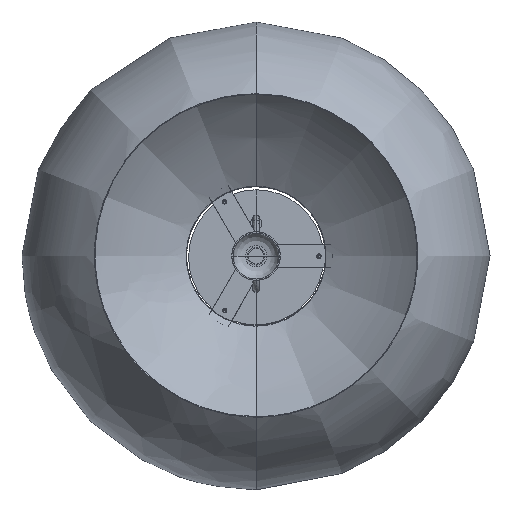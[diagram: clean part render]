
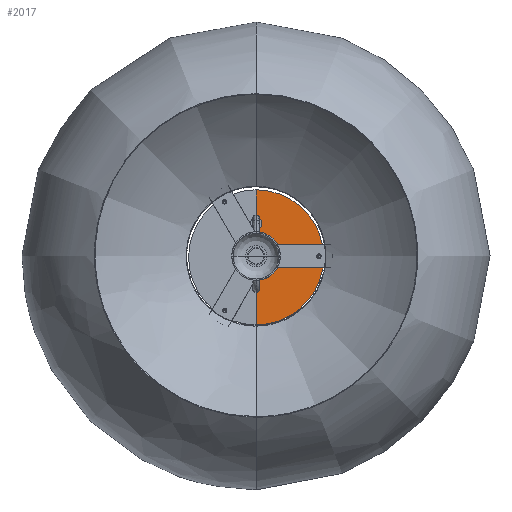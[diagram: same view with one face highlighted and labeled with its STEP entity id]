
A CAD part, top view. The second image highlights one B-rep face of the part: STEP entity #2017.
In plain terms, the highlighted planar face has unit normal (0, 0, 1).
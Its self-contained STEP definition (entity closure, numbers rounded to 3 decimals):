
#127=PLANE('',#2177);
#218=FACE_OUTER_BOUND('',#348,.T.);
#348=EDGE_LOOP('',(#1516,#1517,#1518,#1519,#1520,#1521,#1522));
#473=LINE('',#20696,#636);
#474=LINE('',#20697,#637);
#475=LINE('',#20698,#638);
#636=VECTOR('',#2513,304.8);
#637=VECTOR('',#2514,304.8);
#638=VECTOR('',#2515,304.8);
#785=CIRCLE('',#2162,5.125);
#792=CIRCLE('',#2171,5.125);
#793=CIRCLE('',#2173,5.125);
#797=CIRCLE('',#2178,60.);
#909=VERTEX_POINT('',#20661);
#911=VERTEX_POINT('',#20664);
#914=VERTEX_POINT('',#20674);
#918=VERTEX_POINT('',#20682);
#919=VERTEX_POINT('',#20686);
#921=VERTEX_POINT('',#20693);
#922=VERTEX_POINT('',#20694);
#1124=EDGE_CURVE('',#911,#909,#785,.T.);
#1134=EDGE_CURVE('',#914,#918,#792,.T.);
#1135=EDGE_CURVE('',#919,#914,#793,.T.);
#1139=EDGE_CURVE('',#921,#922,#797,.T.);
#1140=EDGE_CURVE('',#919,#921,#473,.T.);
#1141=EDGE_CURVE('',#911,#918,#474,.T.);
#1142=EDGE_CURVE('',#922,#909,#475,.T.);
#1516=ORIENTED_EDGE('',*,*,#1139,.F.);
#1517=ORIENTED_EDGE('',*,*,#1140,.F.);
#1518=ORIENTED_EDGE('',*,*,#1135,.T.);
#1519=ORIENTED_EDGE('',*,*,#1134,.T.);
#1520=ORIENTED_EDGE('',*,*,#1141,.F.);
#1521=ORIENTED_EDGE('',*,*,#1124,.T.);
#1522=ORIENTED_EDGE('',*,*,#1142,.F.);
#2017=ADVANCED_FACE('',(#218),#127,.F.);
#2162=AXIS2_PLACEMENT_3D('',#20665,#2476,#2477);
#2171=AXIS2_PLACEMENT_3D('',#20684,#2497,#2498);
#2173=AXIS2_PLACEMENT_3D('',#20687,#2501,#2502);
#2177=AXIS2_PLACEMENT_3D('',#20692,#2509,#2510);
#2178=AXIS2_PLACEMENT_3D('',#20695,#2511,#2512);
#2476=DIRECTION('center_axis',(0.,0.,-1.));
#2477=DIRECTION('ref_axis',(0.,-1.,0.));
#2497=DIRECTION('center_axis',(0.,0.,-1.));
#2498=DIRECTION('ref_axis',(-1.,0.,0.));
#2501=DIRECTION('center_axis',(0.,0.,-1.));
#2502=DIRECTION('ref_axis',(-1.,0.,0.));
#2509=DIRECTION('center_axis',(0.,0.,-1.));
#2510=DIRECTION('ref_axis',(0.,-1.,0.));
#2511=DIRECTION('center_axis',(0.,0.,-1.));
#2512=DIRECTION('ref_axis',(0.,-1.,0.));
#2513=DIRECTION('',(0.,1.,0.));
#2514=DIRECTION('',(0.,1.,0.));
#2515=DIRECTION('',(0.,1.,0.));
#20661=CARTESIAN_POINT('',(0.,-5.125,26.));
#20664=CARTESIAN_POINT('',(0.,5.125,26.));
#20665=CARTESIAN_POINT('Origin',(0.,0.,
26.));
#20674=CARTESIAN_POINT('',(5.125,30.,26.));
#20682=CARTESIAN_POINT('',(0.,24.875,26.));
#20684=CARTESIAN_POINT('Origin',(0.,30.,
26.));
#20686=CARTESIAN_POINT('',(0.,35.125,26.));
#20687=CARTESIAN_POINT('Origin',(0.,30.,
26.));
#20692=CARTESIAN_POINT('Origin',(0.,0.,
26.));
#20693=CARTESIAN_POINT('',(0.,60.,26.));
#20694=CARTESIAN_POINT('',(0.,-60.,26.));
#20695=CARTESIAN_POINT('Origin',(0.,0.,
26.));
#20696=CARTESIAN_POINT('',(0.,35.125,26.));
#20697=CARTESIAN_POINT('',(0.,5.125,26.));
#20698=CARTESIAN_POINT('',(0.,-60.,26.));
